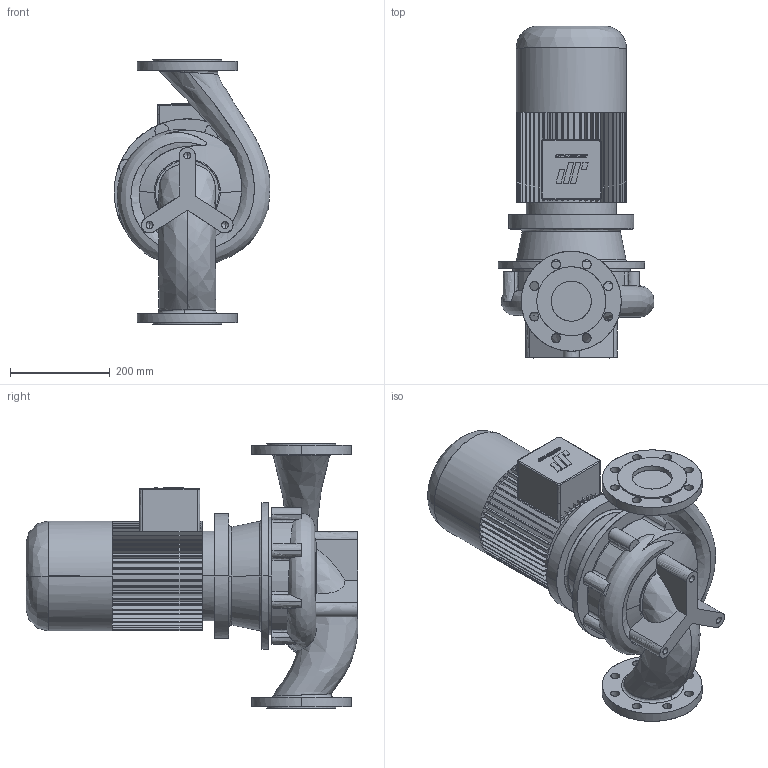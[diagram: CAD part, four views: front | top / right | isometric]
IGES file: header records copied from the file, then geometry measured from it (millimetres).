
Start section: CombiLine
Global section: file name: CLB_80-200_IEC112M_ND10.igs; native system:  By UGS Corp.; preprocessor: XPlus GENERIC/IGES 3.0; author: Stageplaats; organization: Johnson Pump Water B.V.; date: 20070717.093411; units: millimetre
Bounding box: 311.88 x 664 x 530 mm (x, y, z)
Surface area: 1134211.3 mm2 (no closed solid volume)
Topology: 0 solids, 0 shells, 563 faces, 3430 edges, 3424 vertices
Faces by surface type: bspline 563
